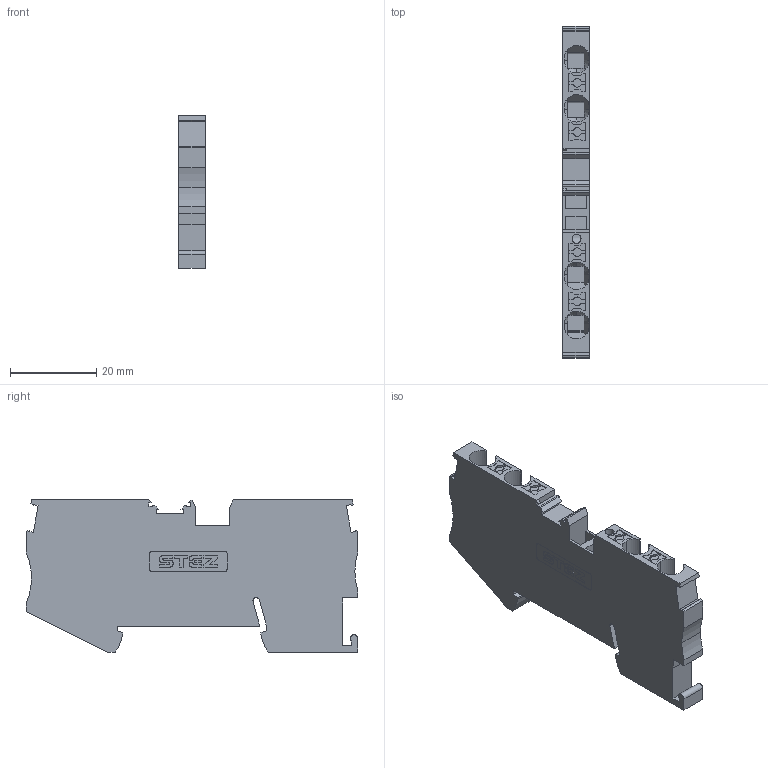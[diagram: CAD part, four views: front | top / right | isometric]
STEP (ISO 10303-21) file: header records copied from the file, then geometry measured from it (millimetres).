
FILE_DESCRIPTION(('TFLEX Exchange Step'),'2;1');
FILE_NAME('14000151_КНБ_4-4-С.stp', '2025-06-24T11:01:38+03:00',('MVarava'),('Unknown organisation'),'TFLEX Exchange 2023.0','T-FLEX CAD','Unknown authorisation');
FILE_SCHEMA( ('AUTOMOTIVE_DESIGN { 1 0 10303 214 1 1 1 1 }') );
Length unit declared in the file: millimetre
Products named in the file (1): Nodes
Bounding box: 6.15 x 77 x 35.35 mm (x, y, z)
Volume: 12093.5 mm3; surface area: 7748.9 mm2
Topology: 1 solids, 1 shells, 491 faces, 1424 edges, 947 vertices
Faces by surface type: plane 278, cylinder 197, cone 8, torus 8
Full cylindrical faces by diameter (mm): 2.1 x1
Entity records: 18071 total; most frequent: CARTESIAN_POINT 5174, ORIENTED_EDGE 2848, DIRECTION 2544, EDGE_CURVE 1424, VERTEX_POINT 947, AXIS2_PLACEMENT_3D 883, VECTOR 778, LINE 778
